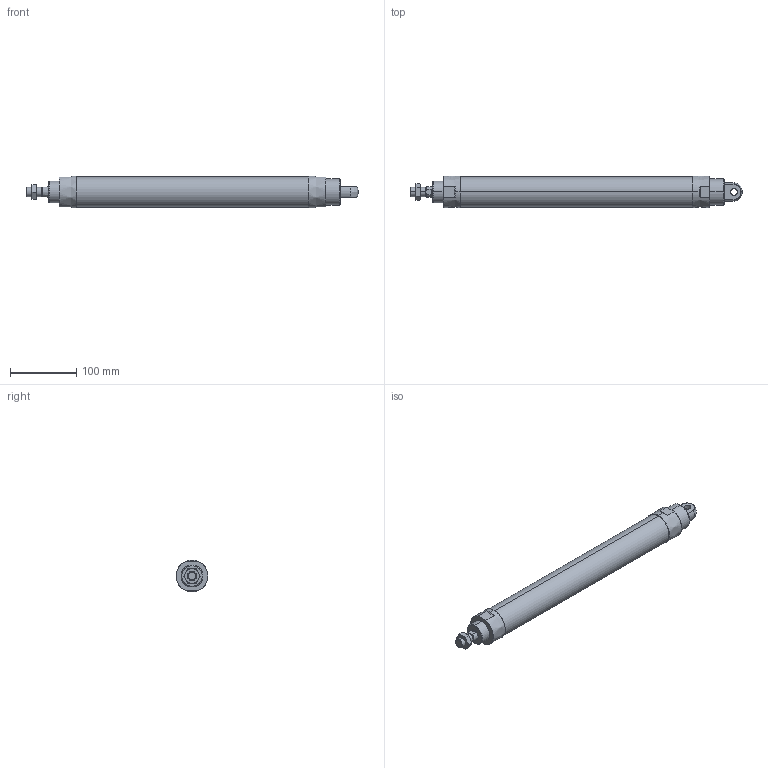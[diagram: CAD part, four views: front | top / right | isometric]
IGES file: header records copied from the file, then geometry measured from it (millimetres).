
Start section: SolidWorks IGES file using analytic representation for surfaces
Global section: file name: C:\Users\Toshiba\Desktop\J#2-40-300-C.IGS; native system: SolidWorks 2014; preprocessor: SolidWorks 2014; author: Toshiba; date: 160308.160924; units: millimetre
Bounding box: 502 x 48 x 48 mm (x, y, z)
Surface area: 73078.7 mm2 (no closed solid volume)
Topology: 0 solids, 0 shells, 81 faces, 1622 edges, 1618 vertices
Faces by surface type: bspline 42, revolution 39
